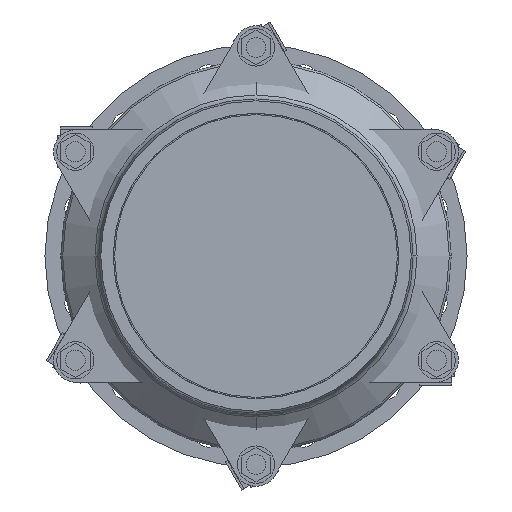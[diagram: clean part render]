
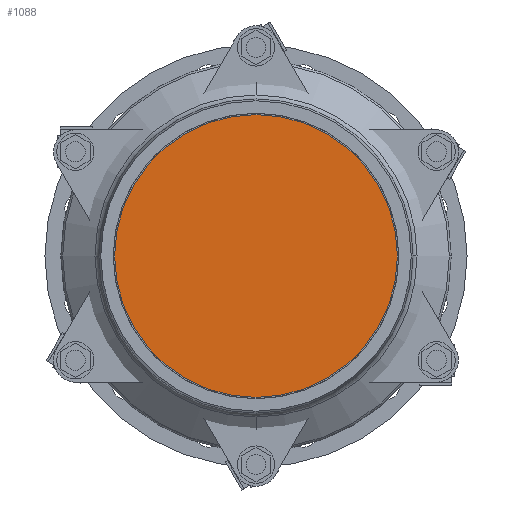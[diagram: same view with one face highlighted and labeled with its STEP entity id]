
A CAD part, left-side view. The second image highlights one B-rep face of the part: STEP entity #1088.
In plain terms, the highlighted planar face has unit normal (-1, 0, 0).
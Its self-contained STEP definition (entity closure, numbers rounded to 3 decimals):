
#1088=ADVANCED_FACE('',(#2292),#2293,.T.);
#2292=FACE_OUTER_BOUND('',#4049,.T.);
#2293=PLANE('',#4050);
#4049=EDGE_LOOP('',(#5591,#5592));
#4050=AXIS2_PLACEMENT_3D('',#5593,#5594,#5595);
#5591=ORIENTED_EDGE('',*,*,#9233,.T.);
#5592=ORIENTED_EDGE('',*,*,#9234,.T.);
#5593=CARTESIAN_POINT('',(-66.0,0.0,0.0));
#5594=DIRECTION('',(-1.0,0.0,0.));
#5595=DIRECTION('',(0.,0.0,1.0));
#9233=EDGE_CURVE('',#10782,#10783,#10784,.T.);
#9234=EDGE_CURVE('',#10783,#10782,#10785,.T.);
#10782=VERTEX_POINT('',#12947);
#10783=VERTEX_POINT('',#12948);
#10784=CIRCLE('',#12949,126.5);
#10785=CIRCLE('',#12950,126.5);
#12947=CARTESIAN_POINT('',(-66.0,0.0,-126.5));
#12948=CARTESIAN_POINT('',(-66.0,0.,126.5));
#12949=AXIS2_PLACEMENT_3D('',#15571,#15572,#15573);
#12950=AXIS2_PLACEMENT_3D('',#15574,#15575,#15576);
#15571=CARTESIAN_POINT('',(-66.0,0.0,0.0));
#15572=DIRECTION('',(-1.0,0.0,0.));
#15573=DIRECTION('',(0.,0.0,-1.0));
#15574=CARTESIAN_POINT('',(-66.0,0.0,0.0));
#15575=DIRECTION('',(-1.0,0.0,0.));
#15576=DIRECTION('',(0.,0.0,-1.0));
